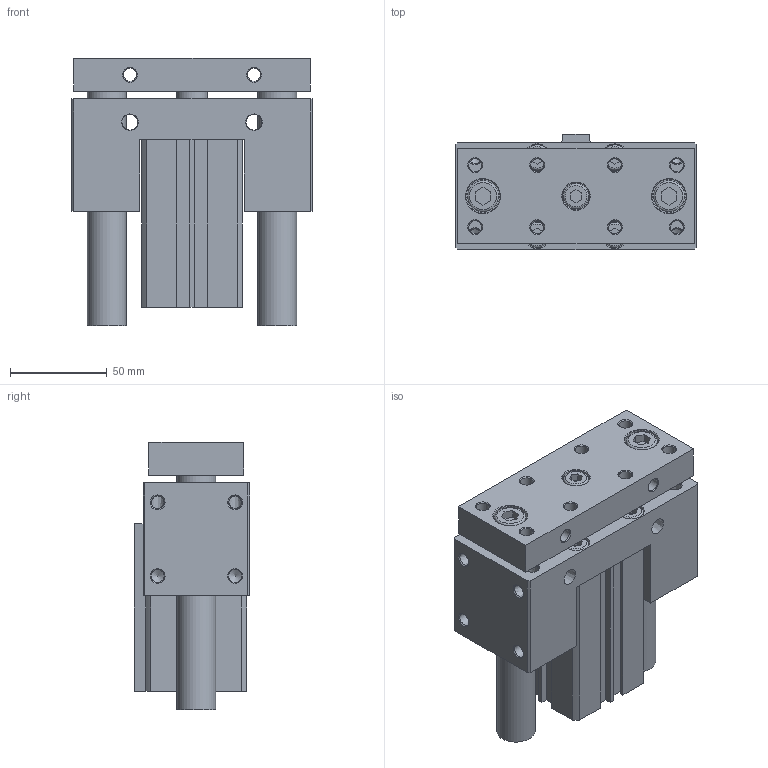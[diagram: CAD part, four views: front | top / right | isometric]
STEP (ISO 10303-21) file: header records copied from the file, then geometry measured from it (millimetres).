
FILE_DESCRIPTION((''),'2;1');
FILE_NAME('I:\3D電子目錄\氣缸\JCB\JCB\JCB40\JCB40x60.stp','2007-08-23T20:09:24',('Administrator'),(''),'Autodesk Inventor 11','Autodesk Inventor 11','');
FILE_SCHEMA(('AUTOMOTIVE_DESIGN { 1 0 10303 214 1 1 1 1 }'));
Length unit declared in the file: millimetre
Products named in the file (1): JCB40
Bounding box: 124 x 59.5 x 138 mm (x, y, z)
Volume: 594753 mm3; surface area: 128830.8 mm2
Topology: 3 solids, 3 shells, 303 faces, 731 edges, 473 vertices
Faces by surface type: plane 163, cylinder 52, cone 47, bspline 33, torus 8
Full cylindrical faces by diameter (mm): 2.2 x2, 6.647 x4, 6.8 x4, 10 x8, 13 x5, 14 x5, 16 x3, 17 x1, 17.5 x2, 20 x2, 23 x2, 28 x1, 29 x1, 42 x4, 44.5 x2
Entity records: 8528 total; most frequent: CARTESIAN_POINT 2090, DIRECTION 1302, ORIENTED_EDGE 1114, EDGE_CURVE 557, EDGE_LOOP 522, AXIS2_PLACEMENT_3D 480, VERTEX_POINT 435, VECTOR 342
